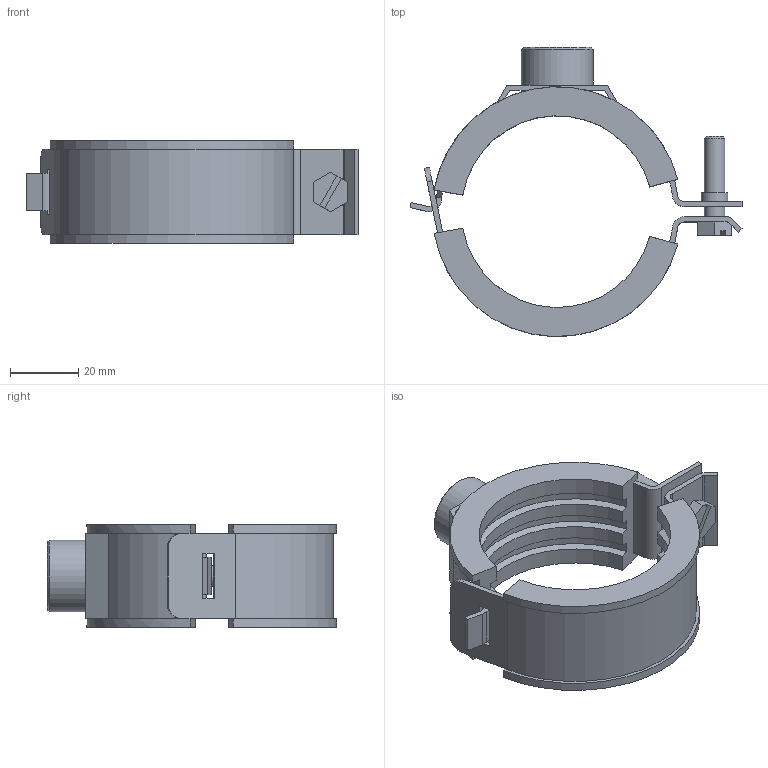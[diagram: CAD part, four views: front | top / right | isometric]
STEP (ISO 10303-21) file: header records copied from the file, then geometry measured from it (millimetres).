
FILE_DESCRIPTION(/* description */ (''),/* implementation_level */ '2;1');
FILE_NAME(/* name */ 'H:\Geberit-Teile\Export\Rohrschelle gedämmt ART\stp\305812.stp',/* time_stamp */ '2014-04-15T15:06:56+02:00',/* author */ ('seihe2'),/* organization */ (''),/* preprocessor_version */ 'ST-DEVELOPER v15.2',/* originating_system */ 'Autodesk Inventor 2014',/* authorisation */ '');
FILE_SCHEMA (('AUTOMOTIVE_DESIGN { 1 0 10303 214 3 1 1 }'));
Length unit declared in the file: millimetre
Products named in the file (1): 305812
Bounding box: 97 x 84.47 x 30 mm (x, y, z)
Volume: 43306.1 mm3; surface area: 23973.9 mm2
Topology: 1 solids, 1 shells, 133 faces, 373 edges, 240 vertices
Faces by surface type: plane 73, cylinder 46, cone 14
Full cylindrical faces by diameter (mm): 6 x2, 7.75 x1, 10 x1, 20.95 x1
Entity records: 4421 total; most frequent: DIRECTION 750, CARTESIAN_POINT 740, ORIENTED_EDGE 732, EDGE_CURVE 366, LINE 250, VECTOR 250, AXIS2_PLACEMENT_3D 250, VERTEX_POINT 240
